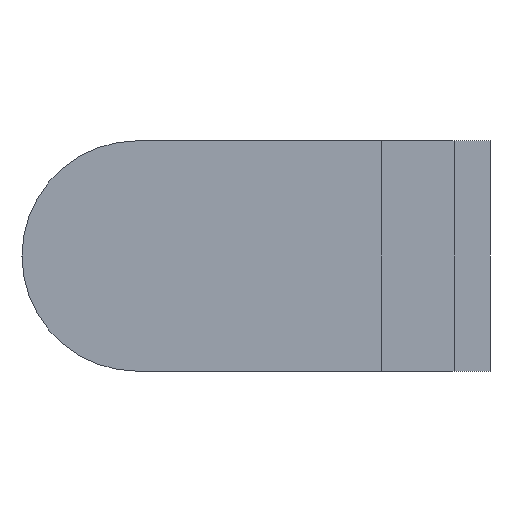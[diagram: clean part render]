
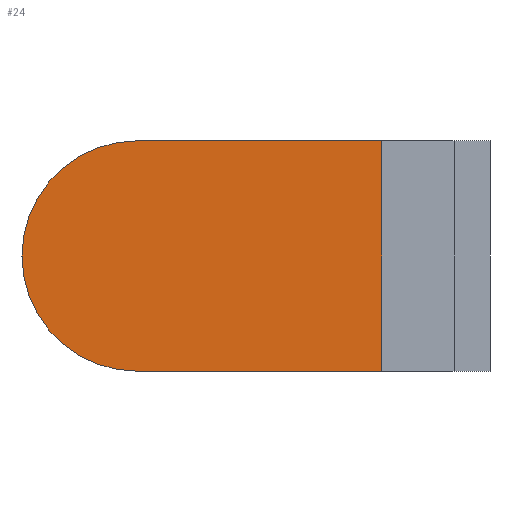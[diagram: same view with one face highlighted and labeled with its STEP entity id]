
A CAD part, left-side view. The second image highlights one B-rep face of the part: STEP entity #24.
In plain terms, the highlighted planar face has unit normal (-1, 0, 0).
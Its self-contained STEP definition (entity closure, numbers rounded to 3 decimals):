
#2 = VERTEX_POINT ( 'NONE', #282 ) ;
#9 = VERTEX_POINT ( 'NONE', #270 ) ;
#10 = VERTEX_POINT ( 'NONE', #269 ) ;
#13 = ORIENTED_EDGE ( 'NONE', *, *, #14, .T. ) ;
#14 = EDGE_CURVE ( 'NONE', #15, #10, #263, .T. ) ;
#15 = VERTEX_POINT ( 'NONE', #322 ) ;
#24 = ADVANCED_FACE ( 'NONE', ( #306 ), #305, .F. ) ;
#25 = EDGE_LOOP ( 'NONE', ( #26, #93, #13, #135, #138 ) ) ;
#26 = ORIENTED_EDGE ( 'NONE', *, *, #27, .T. ) ;
#27 = EDGE_CURVE ( 'NONE', #9, #2, #300, .T. ) ;
#93 = ORIENTED_EDGE ( 'NONE', *, *, #94, .T. ) ;
#94 = EDGE_CURVE ( 'NONE', #2, #15, #434, .T. ) ;
#135 = ORIENTED_EDGE ( 'NONE', *, *, #136, .F. ) ;
#136 = EDGE_CURVE ( 'NONE', #137, #10, #488, .T. ) ;
#137 = VERTEX_POINT ( 'NONE', #548 ) ;
#138 = ORIENTED_EDGE ( 'NONE', *, *, #139, .F. ) ;
#139 = EDGE_CURVE ( 'NONE', #9, #137, #547, .T. ) ;
#260 = DIRECTION ( 'NONE',  ( 0., -1., 0. ) ) ;
#261 = VECTOR ( 'NONE', #260, 1000. ) ;
#262 = CARTESIAN_POINT ( 'NONE',  ( -595., 150., -160. ) ) ;
#263 = LINE ( 'NONE', #262, #261 ) ;
#269 = CARTESIAN_POINT ( 'NONE',  ( -595., 150., -160. ) ) ;
#270 = CARTESIAN_POINT ( 'NONE',  ( -595., 490., 160. ) ) ;
#282 = CARTESIAN_POINT ( 'NONE',  ( -595., 650., 0. ) ) ;
#296 = DIRECTION ( 'NONE',  ( 0., 0., -1. ) ) ;
#297 = DIRECTION ( 'NONE',  ( -1., 0., 0. ) ) ;
#298 = CARTESIAN_POINT ( 'NONE',  ( -595., 490., 0. ) ) ;
#299 = AXIS2_PLACEMENT_3D ( 'NONE', #298, #297, #296 ) ;
#300 = CIRCLE ( 'NONE', #299, 160. ) ;
#301 = DIRECTION ( 'NONE',  ( 0., 0., -1. ) ) ;
#302 = DIRECTION ( 'NONE',  ( 1., 0., 0. ) ) ;
#303 = CARTESIAN_POINT ( 'NONE',  ( -595., 150., 160. ) ) ;
#304 = AXIS2_PLACEMENT_3D ( 'NONE', #303, #302, #301 ) ;
#305 = PLANE ( 'NONE',  #304 ) ;
#306 = FACE_OUTER_BOUND ( 'NONE', #25, .T. ) ;
#322 = CARTESIAN_POINT ( 'NONE',  ( -595., 490., -160. ) ) ;
#430 = DIRECTION ( 'NONE',  ( 0., 0., -1. ) ) ;
#431 = DIRECTION ( 'NONE',  ( -1., 0., 0. ) ) ;
#432 = CARTESIAN_POINT ( 'NONE',  ( -595., 490., 0. ) ) ;
#433 = AXIS2_PLACEMENT_3D ( 'NONE', #432, #431, #430 ) ;
#434 = CIRCLE ( 'NONE', #433, 160. ) ;
#485 = DIRECTION ( 'NONE',  ( 0., 0., -1. ) ) ;
#486 = VECTOR ( 'NONE', #485, 1000. ) ;
#487 = CARTESIAN_POINT ( 'NONE',  ( -595., 150., 160. ) ) ;
#488 = LINE ( 'NONE', #487, #486 ) ;
#544 = DIRECTION ( 'NONE',  ( 0., -1., 0. ) ) ;
#545 = VECTOR ( 'NONE', #544, 1000. ) ;
#546 = CARTESIAN_POINT ( 'NONE',  ( -595., 150., 160. ) ) ;
#547 = LINE ( 'NONE', #546, #545 ) ;
#548 = CARTESIAN_POINT ( 'NONE',  ( -595., 150., 160. ) ) ;
